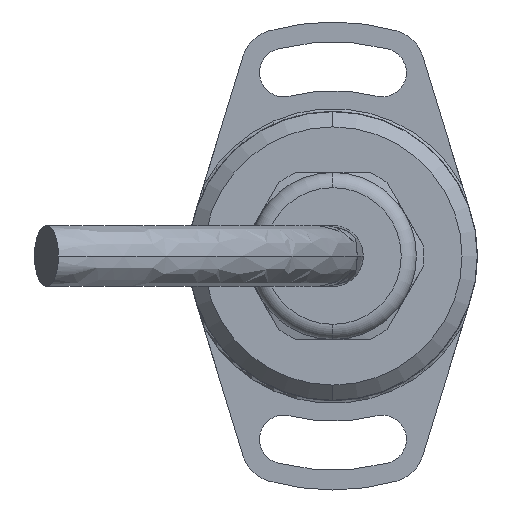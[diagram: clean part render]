
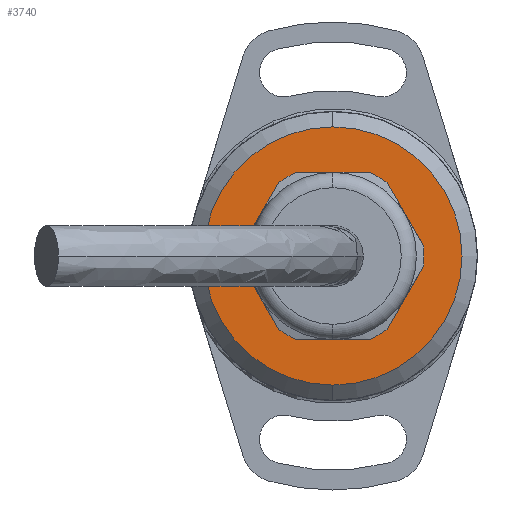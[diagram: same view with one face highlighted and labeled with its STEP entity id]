
A CAD part, left-side view. The second image highlights one B-rep face of the part: STEP entity #3740.
In plain terms, the highlighted planar face has unit normal (-1, 0, 0).
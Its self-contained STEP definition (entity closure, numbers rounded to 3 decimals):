
#90 = AXIS2_PLACEMENT_3D ( 'NONE', #829, #3860, #2674 ) ;
#100 = AXIS2_PLACEMENT_3D ( 'NONE', #1959, #3393, #3999 ) ;
#136 = FACE_OUTER_BOUND ( 'NONE', #3963, .T. ) ;
#271 = EDGE_CURVE ( 'NONE', #3142, #752, #1155, .T. ) ;
#412 = CARTESIAN_POINT ( 'NONE',  ( -34.05, 0., 8.5 ) ) ;
#560 = DIRECTION ( 'NONE',  ( -1., 0., 0. ) ) ;
#691 = EDGE_CURVE ( 'NONE', #3787, #3996, #4183, .T. ) ;
#752 = VERTEX_POINT ( 'NONE', #4383 ) ;
#829 = CARTESIAN_POINT ( 'NONE',  ( -34.05, 0., 0. ) ) ;
#974 = ORIENTED_EDGE ( 'NONE', *, *, #691, .T. ) ;
#1155 = CIRCLE ( 'NONE', #1510, 5. ) ;
#1393 = PLANE ( 'NONE',  #3320 ) ;
#1457 = CARTESIAN_POINT ( 'NONE',  ( -34.05, 0., 0. ) ) ;
#1479 = DIRECTION ( 'NONE',  ( 0., 0., -1. ) ) ;
#1510 = AXIS2_PLACEMENT_3D ( 'NONE', #1457, #2796, #3149 ) ;
#1550 = CARTESIAN_POINT ( 'NONE',  ( -34.05, 0., -5. ) ) ;
#1727 = ORIENTED_EDGE ( 'NONE', *, *, #3905, .T. ) ;
#1959 = CARTESIAN_POINT ( 'NONE',  ( -34.05, 0., 0. ) ) ;
#1981 = CARTESIAN_POINT ( 'NONE',  ( -34.05, 0., 0. ) ) ;
#2019 = CARTESIAN_POINT ( 'NONE',  ( -34.05, 0., -8.5 ) ) ;
#2197 = CIRCLE ( 'NONE', #90, 8.5 ) ;
#2268 = AXIS2_PLACEMENT_3D ( 'NONE', #1981, #560, #2282 ) ;
#2282 = DIRECTION ( 'NONE',  ( 0., 0., -1. ) ) ;
#2674 = DIRECTION ( 'NONE',  ( 0., 0., -1. ) ) ;
#2731 = DIRECTION ( 'NONE',  ( 1., 0., 0. ) ) ;
#2751 = CARTESIAN_POINT ( 'NONE',  ( -34.05, 0., 0. ) ) ;
#2796 = DIRECTION ( 'NONE',  ( -1., 0., 0. ) ) ;
#2888 = EDGE_LOOP ( 'NONE', ( #2958, #3707 ) ) ;
#2958 = ORIENTED_EDGE ( 'NONE', *, *, #4348, .F. ) ;
#3142 = VERTEX_POINT ( 'NONE', #1550 ) ;
#3149 = DIRECTION ( 'NONE',  ( 0., 0., 1. ) ) ;
#3320 = AXIS2_PLACEMENT_3D ( 'NONE', #2751, #2731, #1479 ) ;
#3393 = DIRECTION ( 'NONE',  ( -1., 0., 0. ) ) ;
#3707 = ORIENTED_EDGE ( 'NONE', *, *, #271, .F. ) ;
#3740 = ADVANCED_FACE ( 'NONE', ( #136, #4092 ), #1393, .F. ) ;
#3787 = VERTEX_POINT ( 'NONE', #412 ) ;
#3836 = CIRCLE ( 'NONE', #100, 5. ) ;
#3860 = DIRECTION ( 'NONE',  ( -1., 0., 0. ) ) ;
#3905 = EDGE_CURVE ( 'NONE', #3996, #3787, #2197, .T. ) ;
#3963 = EDGE_LOOP ( 'NONE', ( #1727, #974 ) ) ;
#3996 = VERTEX_POINT ( 'NONE', #2019 ) ;
#3999 = DIRECTION ( 'NONE',  ( 0., 0., 1. ) ) ;
#4092 = FACE_BOUND ( 'NONE', #2888, .T. ) ;
#4183 = CIRCLE ( 'NONE', #2268, 8.5 ) ;
#4348 = EDGE_CURVE ( 'NONE', #752, #3142, #3836, .T. ) ;
#4383 = CARTESIAN_POINT ( 'NONE',  ( -34.05, 0., 5. ) ) ;
